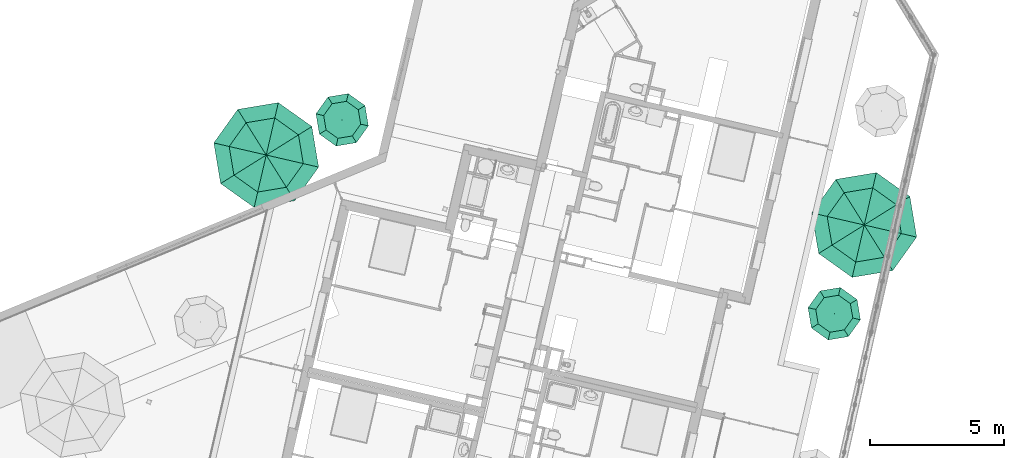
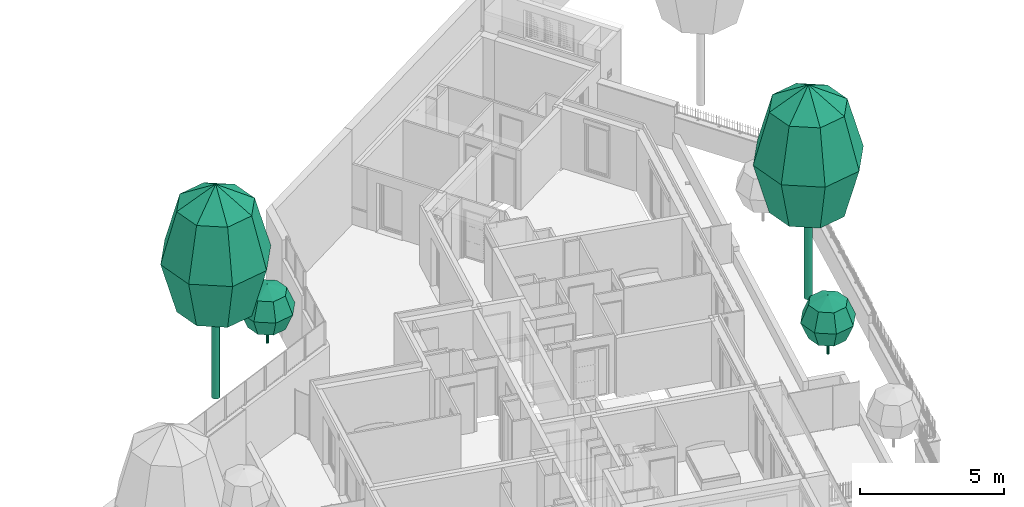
# One storey, part 106 of 119: 4 flow terminals.
"""IFC2X3 building model written with IfcOpenShell, lengths in metres."""

from ifc_helpers import new_model, entity, si_unit, converted_unit, derived_unit, money_unit, direction, frame, origin_with_axes, place, context, subcontext, project, spatial, faceted_brep, source, transform, mapped, type_object, element, save


model = new_model("IFC2X3")

# Units and contexts
model_context = context("Model", 3, precision=1e-05, world=origin_with_axes(), true_north=direction((0.0, 1.0)))
body_context = subcontext(model_context, "Body", "Model", "MODEL_VIEW")
ifc_project = project(units=[si_unit("LENGTHUNIT", "METRE"), si_unit("AREAUNIT", "SQUARE_METRE"), si_unit("VOLUMEUNIT", "CUBIC_METRE"), converted_unit("PLANEANGLEUNIT", "DEGREE", entity("IfcPlaneAngleMeasure", 0.0174532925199), si_unit("PLANEANGLEUNIT", "RADIAN"), dimensions=[0, 0, 0, 0, 0, 0, 0]), si_unit("SOLIDANGLEUNIT", "STERADIAN"), money_unit("EUR"), converted_unit("TIMEUNIT", "Year", entity("IfcTimeMeasure", 31556926.0), si_unit("TIMEUNIT", "SECOND"), dimensions=[0, 0, 1, 0, 0, 0, 0]), si_unit("MASSUNIT", "GRAM", prefix="KILO"), si_unit("THERMODYNAMICTEMPERATUREUNIT", "DEGREE_CELSIUS"), si_unit("LUMINOUSINTENSITYUNIT", "LUMEN"), si_unit("ENERGYUNIT", "JOULE", prefix="MEGA"), derived_unit("THERMALCONDUCTANCEUNIT", [(si_unit("POWERUNIT", "WATT"), 1), (si_unit("LENGTHUNIT", "METRE"), -1), (si_unit("THERMODYNAMICTEMPERATUREUNIT", "KELVIN"), -1)]), derived_unit("SPECIFICHEATCAPACITYUNIT", [(si_unit("ENERGYUNIT", "JOULE"), 1), (si_unit("MASSUNIT", "GRAM", prefix="KILO"), -1), (si_unit("THERMODYNAMICTEMPERATUREUNIT", "KELVIN"), -1)]), derived_unit("MASSDENSITYUNIT", [(si_unit("MASSUNIT", "GRAM", prefix="KILO"), 1), (si_unit("VOLUMEUNIT", "CUBIC_METRE"), -1)])], contexts=[model_context])

# Site, building, storey
site_placement = place(None, origin_with_axes())
site = spatial("IfcSite", under=ifc_project, at=site_placement, Name="Site", CompositionType="ELEMENT")
building_placement = place(site_placement, origin_with_axes())
building = spatial("IfcBuilding", under=site, at=building_placement, Name="Bâtiment", CompositionType="ELEMENT")
storey_placement = place(building_placement, origin_with_axes())
storey = spatial("IfcBuildingStorey", under=building, at=storey_placement, Name="Rez-de-chaussée", CompositionType="ELEMENT", Elevation=0.0)

# Flow terminals
air_terminal_type = type_object("IfcAirTerminalType", Name="Modèle arbre conceptuel 23", PredefinedType="NOTDEFINED")
shared_shape_1 = source(origin_with_axes(), body_context, "Body", "Brep", [
    faceted_brep([(-0.0492403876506, -0.00868240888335, 0.0), (-0.05, 0.0, 0.0), (-0.0492403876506, 0.00868240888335, 0.0), (-0.0469846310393, 0.0171010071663, 0.0), (-0.0433012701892, 0.025, 0.0), (-0.0383022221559, 0.0321393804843, 0.0), (-0.0321393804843, 0.0383022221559, 0.0), (-0.025, 0.0433012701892, 0.0), (-0.0171010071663, 0.0469846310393, 0.0), (-0.00868240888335, 0.0492403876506, 0.0), (0.0, 0.05, 0.0), (0.00868240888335, 0.0492403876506, 0.0), (0.0171010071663, 0.0469846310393, 0.0), (0.025, 0.0433012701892, 0.0), (0.0321393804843, 0.0383022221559, 0.0), (0.0383022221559, 0.0321393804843, 0.0), (0.0433012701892, 0.025, 0.0), (0.0469846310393, 0.0171010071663, 0.0), (0.0492403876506, 0.00868240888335, 0.0), (0.05, 0.0, 0.0), (0.0492403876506, -0.00868240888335, 0.0), (0.0469846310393, -0.0171010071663, 0.0), (0.0433012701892, -0.025, 0.0), (0.0383022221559, -0.0321393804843, 0.0), (0.0321393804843, -0.0383022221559, 0.0), (0.025, -0.0433012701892, 0.0), (0.0171010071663, -0.0469846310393, 0.0), (0.00868240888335, -0.0492403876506, 0.0), (0.0, -0.05, 0.0), (-0.00868240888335, -0.0492403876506, 0.0), (-0.0171010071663, -0.0469846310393, 0.0), (-0.025, -0.0433012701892, 0.0), (-0.0321393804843, -0.0383022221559, 0.0), (-0.0383022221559, -0.0321393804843, 0.0), (-0.0433012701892, -0.025, 0.0), (-0.0469846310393, -0.0171010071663, 0.0), (-0.0492403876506, -0.00868240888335, 0.5), (-0.05, 0.0, 0.5), (-0.0492403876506, 0.00868240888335, 0.5), (-0.0469846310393, 0.0171010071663, 0.5), (-0.0433012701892, 0.025, 0.5), (-0.0383022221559, 0.0321393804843, 0.5), (-0.0321393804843, 0.0383022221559, 0.5), (-0.025, 0.0433012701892, 0.5), (-0.0171010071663, 0.0469846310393, 0.5), (-0.00868240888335, 0.0492403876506, 0.5), (0.0, 0.05, 0.5), (0.00868240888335, 0.0492403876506, 0.5), (0.0171010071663, 0.0469846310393, 0.5), (0.025, 0.0433012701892, 0.5), (0.0321393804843, 0.0383022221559, 0.5), (0.0383022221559, 0.0321393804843, 0.5), (0.0433012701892, 0.025, 0.5), (0.0469846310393, 0.0171010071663, 0.5), (0.0492403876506, 0.00868240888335, 0.5), (0.05, 0.0, 0.5), (0.0492403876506, -0.00868240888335, 0.5), (0.0469846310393, -0.0171010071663, 0.5), (0.0433012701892, -0.025, 0.5), (0.0383022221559, -0.0321393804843, 0.5), (0.0321393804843, -0.0383022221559, 0.5), (0.025, -0.0433012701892, 0.5), (0.0171010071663, -0.0469846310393, 0.5), (0.00868240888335, -0.0492403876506, 0.5), (0.0, -0.05, 0.5), (-0.00868240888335, -0.0492403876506, 0.5), (-0.0171010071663, -0.0469846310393, 0.5), (-0.025, -0.0433012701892, 0.5), (-0.0321393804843, -0.0383022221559, 0.5), (-0.0383022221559, -0.0321393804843, 0.5), (-0.0433012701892, -0.025, 0.5), (-0.0469846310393, -0.0171010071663, 0.5)], [[[0, 1, 2, 3, 4, 5, 6, 7, 8, 9, 10, 11, 12, 13, 14, 15, 16, 17, 18, 19, 20, 21, 22, 23, 24, 25, 26, 27, 28, 29, 30, 31, 32, 33, 34, 35]], [[0, 36, 37, 1]], [[1, 37, 38, 2]], [[2, 38, 39, 3]], [[3, 39, 40, 4]], [[4, 40, 41, 5]], [[5, 41, 42, 6]], [[6, 42, 43, 7]], [[7, 43, 44, 8]], [[8, 44, 45, 9]], [[9, 45, 46, 10]], [[10, 46, 47, 11]], [[11, 47, 48, 12]], [[12, 48, 49, 13]], [[13, 49, 50, 14]], [[14, 50, 51, 15]], [[15, 51, 52, 16]], [[16, 52, 53, 17]], [[17, 53, 54, 18]], [[18, 54, 55, 19]], [[19, 55, 56, 20]], [[20, 56, 57, 21]], [[21, 57, 58, 22]], [[22, 58, 59, 23]], [[23, 59, 60, 24]], [[24, 60, 61, 25]], [[25, 61, 62, 26]], [[26, 62, 63, 27]], [[27, 63, 64, 28]], [[28, 64, 65, 29]], [[29, 65, 66, 30]], [[30, 66, 67, 31]], [[31, 67, 68, 32]], [[32, 68, 69, 33]], [[33, 69, 70, 34]], [[34, 70, 71, 35]], [[35, 71, 36, 0]], [[36, 71, 70, 69, 68, 67, 66, 65, 64, 63, 62, 61, 60, 59, 58, 57, 56, 55, 54, 53, 52, 51, 50, 49, 48, 47, 46, 45, 44, 43, 42, 41, 40, 39, 38, 37]]]),
    faceted_brep([(-0.0492403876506, -0.00868240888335, 0.5), (-0.05, 0.0, 0.5), (-0.0492403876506, 0.00868240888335, 0.5), (-0.0469846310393, 0.0171010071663, 0.5), (-0.0433012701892, 0.025, 0.5), (-0.0383022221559, 0.0321393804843, 0.5), (-0.0321393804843, 0.0383022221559, 0.5), (-0.025, 0.0433012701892, 0.5), (-0.0171010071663, 0.0469846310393, 0.5), (-0.00868240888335, 0.0492403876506, 0.5), (0.0, 0.05, 0.5), (0.00868240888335, 0.0492403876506, 0.5), (0.0171010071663, 0.0469846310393, 0.5), (0.025, 0.0433012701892, 0.5), (0.0321393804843, 0.0383022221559, 0.5), (0.0383022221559, 0.0321393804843, 0.5), (0.0433012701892, 0.025, 0.5), (0.0469846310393, 0.0171010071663, 0.5), (0.0492403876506, 0.00868240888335, 0.5), (0.05, 0.0, 0.5), (0.0492403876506, -0.00868240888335, 0.5), (0.0469846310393, -0.0171010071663, 0.5), (0.0433012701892, -0.025, 0.5), (0.0383022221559, -0.0321393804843, 0.5), (0.0321393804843, -0.0383022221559, 0.5), (0.025, -0.0433012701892, 0.5), (0.0171010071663, -0.0469846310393, 0.5), (0.00868240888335, -0.0492403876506, 0.5), (0.0, -0.05, 0.5), (-0.00868240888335, -0.0492403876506, 0.5), (-0.0171010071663, -0.0469846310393, 0.5), (-0.025, -0.0433012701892, 0.5), (-0.0321393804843, -0.0383022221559, 0.5), (-0.0383022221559, -0.0321393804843, 0.5), (-0.0433012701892, -0.025, 0.5), (-0.0469846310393, -0.0171010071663, 0.5), (0.0, 0.0, 1.5)], [[[0, 1, 2, 3, 4, 5, 6, 7, 8, 9, 10, 11, 12, 13, 14, 15, 16, 17, 18, 19, 20, 21, 22, 23, 24, 25, 26, 27, 28, 29, 30, 31, 32, 33, 34, 35]], [[0, 36, 1]], [[1, 36, 2]], [[2, 36, 3]], [[3, 36, 4]], [[4, 36, 5]], [[5, 36, 6]], [[6, 36, 7]], [[7, 36, 8]], [[8, 36, 9]], [[9, 36, 10]], [[10, 36, 11]], [[11, 36, 12]], [[12, 36, 13]], [[13, 36, 14]], [[14, 36, 15]], [[15, 36, 16]], [[16, 36, 17]], [[17, 36, 18]], [[18, 36, 19]], [[19, 36, 20]], [[20, 36, 21]], [[21, 36, 22]], [[22, 36, 23]], [[23, 36, 24]], [[24, 36, 25]], [[25, 36, 26]], [[26, 36, 27]], [[27, 36, 28]], [[28, 36, 29]], [[29, 36, 30]], [[30, 36, 31]], [[31, 36, 32]], [[32, 36, 33]], [[33, 36, 34]], [[34, 36, 35]], [[35, 36, 0]]]),
    faceted_brep([(-0.707106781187, 0.0, 2.20710678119), (-0.5, -0.5, 2.20710678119), (0.0, 0.0, 2.5), (-1.0, 0.0, 1.5), (-0.707106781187, -0.707106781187, 1.5), (0.0, -0.707106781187, 2.20710678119), (-0.5, 0.5, 2.20710678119), (-0.707106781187, 0.0, 0.792893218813), (-0.5, -0.5, 0.792893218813), (0.0, -1.0, 1.5), (-0.707106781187, 0.707106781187, 1.5), (0.5, -0.5, 2.20710678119), (0.0, 0.707106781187, 2.20710678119), (0.0, 0.0, 0.5), (0.0, -0.707106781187, 0.792893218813), (-0.5, 0.5, 0.792893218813), (0.707106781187, -0.707106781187, 1.5), (0.0, 1.0, 1.5), (0.707106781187, 0.0, 2.20710678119), (0.5, 0.5, 2.20710678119), (0.5, -0.5, 0.792893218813), (0.0, 0.707106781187, 0.792893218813), (1.0, 0.0, 1.5), (0.707106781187, 0.707106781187, 1.5), (0.707106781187, 0.0, 0.792893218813), (0.5, 0.5, 0.792893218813)], [[[0, 1, 2]], [[3, 4, 1, 0]], [[1, 5, 2]], [[6, 0, 2]], [[7, 8, 4, 3]], [[4, 9, 5, 1]], [[10, 3, 0, 6]], [[5, 11, 2]], [[12, 6, 2]], [[13, 8, 7]], [[8, 14, 9, 4]], [[15, 7, 3, 10]], [[9, 16, 11, 5]], [[17, 10, 6, 12]], [[11, 18, 2]], [[19, 12, 2]], [[13, 14, 8]], [[13, 7, 15]], [[14, 20, 16, 9]], [[21, 15, 10, 17]], [[16, 22, 18, 11]], [[23, 17, 12, 19]], [[18, 19, 2]], [[13, 20, 14]], [[13, 15, 21]], [[20, 24, 22, 16]], [[25, 21, 17, 23]], [[22, 23, 19, 18]], [[13, 24, 20]], [[13, 21, 25]], [[24, 25, 23, 22]], [[13, 25, 24]]]),
])
for number, where, z_axis, x_axis in (
    (1, (2.85728122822, 6.11642020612, 0.0), (0.0, 0.0, 1.0), (-0.224876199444, -0.974387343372, 0.0)),
    (2, (-15.4364690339, 13.324645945, 2.5), (0.0, 0.0, 1.0), (-0.224876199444, -0.974387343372, 0.0)),
):
    element("IfcFlowTerminal", number, at=place(storey_placement, frame(where, z_axis=z_axis, x_axis=x_axis)), inside=storey, type_object=air_terminal_type, ObjectType="AIR TERMINAL", context=body_context, shape_type="MappedRepresentation", body=[
        mapped(shared_shape_1, transform((0.0, 0.0, 0.0))),
    ])
shared_shape_2 = source(origin_with_axes(), body_context, "Body", "Brep", [
    faceted_brep([(-0.147721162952, -0.02604722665, 0.0), (-0.15, 0.0, 0.0), (-0.147721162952, 0.02604722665, 0.0), (-0.140953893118, 0.0513030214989, 0.0), (-0.129903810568, 0.075, 0.0), (-0.114906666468, 0.096418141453, 0.0), (-0.096418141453, 0.114906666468, 0.0), (-0.075, 0.129903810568, 0.0), (-0.0513030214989, 0.140953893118, 0.0), (-0.02604722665, 0.147721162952, 0.0), (0.0, 0.15, 0.0), (0.02604722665, 0.147721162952, 0.0), (0.0513030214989, 0.140953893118, 0.0), (0.075, 0.129903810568, 0.0), (0.096418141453, 0.114906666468, 0.0), (0.114906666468, 0.096418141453, 0.0), (0.129903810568, 0.075, 0.0), (0.140953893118, 0.0513030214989, 0.0), (0.147721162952, 0.02604722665, 0.0), (0.15, 0.0, 0.0), (0.147721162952, -0.02604722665, 0.0), (0.140953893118, -0.0513030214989, 0.0), (0.129903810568, -0.075, 0.0), (0.114906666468, -0.096418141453, 0.0), (0.096418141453, -0.114906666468, 0.0), (0.075, -0.129903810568, 0.0), (0.0513030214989, -0.140953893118, 0.0), (0.02604722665, -0.147721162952, 0.0), (0.0, -0.15, 0.0), (-0.02604722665, -0.147721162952, 0.0), (-0.0513030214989, -0.140953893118, 0.0), (-0.075, -0.129903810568, 0.0), (-0.096418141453, -0.114906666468, 0.0), (-0.114906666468, -0.096418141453, 0.0), (-0.129903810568, -0.075, 0.0), (-0.140953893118, -0.0513030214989, 0.0), (-0.147721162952, -0.02604722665, 3.0), (-0.15, 0.0, 3.0), (-0.147721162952, 0.02604722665, 3.0), (-0.140953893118, 0.0513030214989, 3.0), (-0.129903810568, 0.075, 3.0), (-0.114906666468, 0.096418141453, 3.0), (-0.096418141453, 0.114906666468, 3.0), (-0.075, 0.129903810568, 3.0), (-0.0513030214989, 0.140953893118, 3.0), (-0.02604722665, 0.147721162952, 3.0), (0.0, 0.15, 3.0), (0.02604722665, 0.147721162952, 3.0), (0.0513030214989, 0.140953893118, 3.0), (0.075, 0.129903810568, 3.0), (0.096418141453, 0.114906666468, 3.0), (0.114906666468, 0.096418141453, 3.0), (0.129903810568, 0.075, 3.0), (0.140953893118, 0.0513030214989, 3.0), (0.147721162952, 0.02604722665, 3.0), (0.15, 0.0, 3.0), (0.147721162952, -0.02604722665, 3.0), (0.140953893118, -0.0513030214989, 3.0), (0.129903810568, -0.075, 3.0), (0.114906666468, -0.096418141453, 3.0), (0.096418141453, -0.114906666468, 3.0), (0.075, -0.129903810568, 3.0), (0.0513030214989, -0.140953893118, 3.0), (0.02604722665, -0.147721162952, 3.0), (0.0, -0.15, 3.0), (-0.02604722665, -0.147721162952, 3.0), (-0.0513030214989, -0.140953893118, 3.0), (-0.075, -0.129903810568, 3.0), (-0.096418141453, -0.114906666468, 3.0), (-0.114906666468, -0.096418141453, 3.0), (-0.129903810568, -0.075, 3.0), (-0.140953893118, -0.0513030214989, 3.0)], [[[0, 1, 2, 3, 4, 5, 6, 7, 8, 9, 10, 11, 12, 13, 14, 15, 16, 17, 18, 19, 20, 21, 22, 23, 24, 25, 26, 27, 28, 29, 30, 31, 32, 33, 34, 35]], [[0, 36, 37, 1]], [[1, 37, 38, 2]], [[2, 38, 39, 3]], [[3, 39, 40, 4]], [[4, 40, 41, 5]], [[5, 41, 42, 6]], [[6, 42, 43, 7]], [[7, 43, 44, 8]], [[8, 44, 45, 9]], [[9, 45, 46, 10]], [[10, 46, 47, 11]], [[11, 47, 48, 12]], [[12, 48, 49, 13]], [[13, 49, 50, 14]], [[14, 50, 51, 15]], [[15, 51, 52, 16]], [[16, 52, 53, 17]], [[17, 53, 54, 18]], [[18, 54, 55, 19]], [[19, 55, 56, 20]], [[20, 56, 57, 21]], [[21, 57, 58, 22]], [[22, 58, 59, 23]], [[23, 59, 60, 24]], [[24, 60, 61, 25]], [[25, 61, 62, 26]], [[26, 62, 63, 27]], [[27, 63, 64, 28]], [[28, 64, 65, 29]], [[29, 65, 66, 30]], [[30, 66, 67, 31]], [[31, 67, 68, 32]], [[32, 68, 69, 33]], [[33, 69, 70, 34]], [[34, 70, 71, 35]], [[35, 71, 36, 0]], [[36, 71, 70, 69, 68, 67, 66, 65, 64, 63, 62, 61, 60, 59, 58, 57, 56, 55, 54, 53, 52, 51, 50, 49, 48, 47, 46, 45, 44, 43, 42, 41, 40, 39, 38, 37]]]),
    faceted_brep([(-0.147721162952, -0.02604722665, 3.0), (-0.15, 0.0, 3.0), (-0.147721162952, 0.02604722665, 3.0), (-0.140953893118, 0.0513030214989, 3.0), (-0.129903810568, 0.075, 3.0), (-0.114906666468, 0.096418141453, 3.0), (-0.096418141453, 0.114906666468, 3.0), (-0.075, 0.129903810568, 3.0), (-0.0513030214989, 0.140953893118, 3.0), (-0.02604722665, 0.147721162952, 3.0), (0.0, 0.15, 3.0), (0.02604722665, 0.147721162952, 3.0), (0.0513030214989, 0.140953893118, 3.0), (0.075, 0.129903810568, 3.0), (0.096418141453, 0.114906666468, 3.0), (0.114906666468, 0.096418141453, 3.0), (0.129903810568, 0.075, 3.0), (0.140953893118, 0.0513030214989, 3.0), (0.147721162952, 0.02604722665, 3.0), (0.15, 0.0, 3.0), (0.147721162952, -0.02604722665, 3.0), (0.140953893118, -0.0513030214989, 3.0), (0.129903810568, -0.075, 3.0), (0.114906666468, -0.096418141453, 3.0), (0.096418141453, -0.114906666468, 3.0), (0.075, -0.129903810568, 3.0), (0.0513030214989, -0.140953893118, 3.0), (0.02604722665, -0.147721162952, 3.0), (0.0, -0.15, 3.0), (-0.02604722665, -0.147721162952, 3.0), (-0.0513030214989, -0.140953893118, 3.0), (-0.075, -0.129903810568, 3.0), (-0.096418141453, -0.114906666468, 3.0), (-0.114906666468, -0.096418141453, 3.0), (-0.129903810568, -0.075, 3.0), (-0.140953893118, -0.0513030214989, 3.0), (0.0, 0.0, 6.0)], [[[0, 1, 2, 3, 4, 5, 6, 7, 8, 9, 10, 11, 12, 13, 14, 15, 16, 17, 18, 19, 20, 21, 22, 23, 24, 25, 26, 27, 28, 29, 30, 31, 32, 33, 34, 35]], [[0, 36, 1]], [[1, 36, 2]], [[2, 36, 3]], [[3, 36, 4]], [[4, 36, 5]], [[5, 36, 6]], [[6, 36, 7]], [[7, 36, 8]], [[8, 36, 9]], [[9, 36, 10]], [[10, 36, 11]], [[11, 36, 12]], [[12, 36, 13]], [[13, 36, 14]], [[14, 36, 15]], [[15, 36, 16]], [[16, 36, 17]], [[17, 36, 18]], [[18, 36, 19]], [[19, 36, 20]], [[20, 36, 21]], [[21, 36, 22]], [[22, 36, 23]], [[23, 36, 24]], [[24, 36, 25]], [[25, 36, 26]], [[26, 36, 27]], [[27, 36, 28]], [[28, 36, 29]], [[29, 36, 30]], [[30, 36, 31]], [[31, 36, 32]], [[32, 36, 33]], [[33, 36, 34]], [[34, 36, 35]], [[35, 36, 0]]]),
    faceted_brep([(-1.41421356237, 0.0, 8.12132034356), (-1.0, -1.0, 8.12132034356), (0.0, 0.0, 9.0), (-2.0, 0.0, 6.0), (-1.41421356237, -1.41421356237, 6.0), (0.0, -1.41421356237, 8.12132034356), (-1.0, 1.0, 8.12132034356), (-1.41421356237, 0.0, 3.87867965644), (-1.0, -1.0, 3.87867965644), (0.0, -2.0, 6.0), (-1.41421356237, 1.41421356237, 6.0), (1.0, -1.0, 8.12132034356), (0.0, 1.41421356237, 8.12132034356), (0.0, 0.0, 3.0), (0.0, -1.41421356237, 3.87867965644), (-1.0, 1.0, 3.87867965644), (1.41421356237, -1.41421356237, 6.0), (0.0, 2.0, 6.0), (1.41421356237, 0.0, 8.12132034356), (1.0, 1.0, 8.12132034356), (1.0, -1.0, 3.87867965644), (0.0, 1.41421356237, 3.87867965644), (2.0, 0.0, 6.0), (1.41421356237, 1.41421356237, 6.0), (1.41421356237, 0.0, 3.87867965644), (1.0, 1.0, 3.87867965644)], [[[0, 1, 2]], [[3, 4, 1, 0]], [[1, 5, 2]], [[6, 0, 2]], [[7, 8, 4, 3]], [[4, 9, 5, 1]], [[10, 3, 0, 6]], [[5, 11, 2]], [[12, 6, 2]], [[13, 8, 7]], [[8, 14, 9, 4]], [[15, 7, 3, 10]], [[9, 16, 11, 5]], [[17, 10, 6, 12]], [[11, 18, 2]], [[19, 12, 2]], [[13, 14, 8]], [[13, 7, 15]], [[14, 20, 16, 9]], [[21, 15, 10, 17]], [[16, 22, 18, 11]], [[23, 17, 12, 19]], [[18, 19, 2]], [[13, 20, 14]], [[13, 15, 21]], [[20, 24, 22, 16]], [[25, 21, 17, 23]], [[22, 23, 19, 18]], [[13, 24, 20]], [[13, 21, 25]], [[24, 25, 23, 22]], [[13, 25, 24]]]),
])
flow_terminal_1_placement = place(storey_placement, frame((3.97198374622, 9.41587313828, 0.0), z_axis=(0.0, 0.0, 1.0), x_axis=(-0.224876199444, -0.974387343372, 0.0)))
element("IfcFlowTerminal", 3, at=flow_terminal_1_placement, inside=storey, type_object=air_terminal_type, Name="Prunus ceradifera", ObjectType="AIR TERMINAL", context=body_context, shape_type="MappedRepresentation", body=[
    mapped(shared_shape_2, transform((0.0, 0.0, 0.0))),
])
flow_terminal_2_placement = place(storey_placement, frame((-18.2604231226, 12.0170976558, 2.0), z_axis=(0.0, 0.0, 1.0), x_axis=(-0.224876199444, -0.974387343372, 0.0)))
element("IfcFlowTerminal", 4, at=flow_terminal_2_placement, inside=storey, type_object=air_terminal_type, Name="Carpinus caroliniana", ObjectType="AIR TERMINAL", context=body_context, shape_type="MappedRepresentation", body=[
    mapped(shared_shape_2, transform((0.0, 0.0, 0.0))),
])

save(model, "model.ifc")
